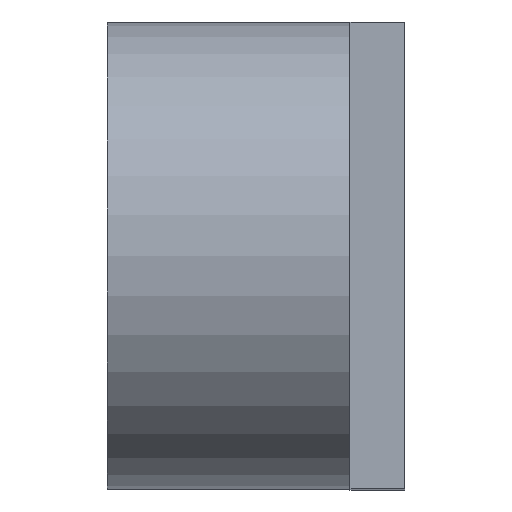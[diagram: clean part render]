
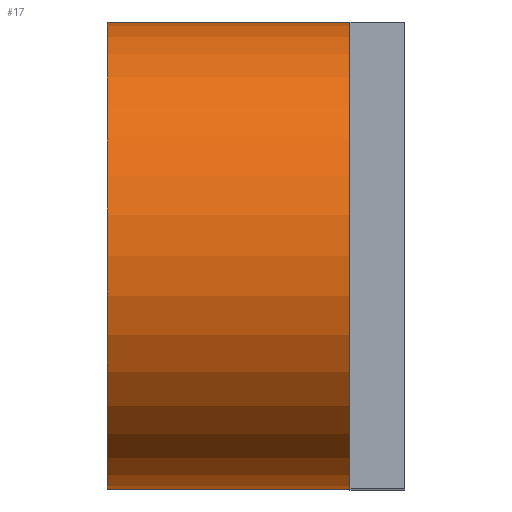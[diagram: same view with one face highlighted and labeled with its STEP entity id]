
A CAD part, top view. The second image highlights one B-rep face of the part: STEP entity #17.
In plain terms, the highlighted cylindrical face has radius 17 mm (diameter 34 mm), a full revolution.
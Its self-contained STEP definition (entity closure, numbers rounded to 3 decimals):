
#17 = ADVANCED_FACE('',(#18),#63,.T.);
#18 = FACE_BOUND('',#19,.T.);
#19 = EDGE_LOOP('',(#20,#31,#39,#46,#47,#56));
#20 = ORIENTED_EDGE('',*,*,#21,.F.);
#21 = EDGE_CURVE('',#22,#24,#26,.T.);
#22 = VERTEX_POINT('',#23);
#23 = CARTESIAN_POINT('',(95.,-108.,150.));
#24 = VERTEX_POINT('',#25);
#25 = CARTESIAN_POINT('',(95.,-125.,133.));
#26 = CIRCLE('',#27,17.);
#27 = AXIS2_PLACEMENT_3D('',#28,#29,#30);
#28 = CARTESIAN_POINT('',(95.,-108.,133.));
#29 = DIRECTION('',(1.,0.,-0.));
#30 = DIRECTION('',(0.,0.,1.));
#31 = ORIENTED_EDGE('',*,*,#32,.F.);
#32 = EDGE_CURVE('',#33,#22,#35,.T.);
#33 = VERTEX_POINT('',#34);
#34 = CARTESIAN_POINT('',(77.3,-108.,150.));
#35 = LINE('',#36,#37);
#36 = CARTESIAN_POINT('',(77.3,-108.,150.));
#37 = VECTOR('',#38,1.);
#38 = DIRECTION('',(1.,0.,0.));
#39 = ORIENTED_EDGE('',*,*,#40,.T.);
#40 = EDGE_CURVE('',#33,#33,#41,.T.);
#41 = CIRCLE('',#42,17.);
#42 = AXIS2_PLACEMENT_3D('',#43,#44,#45);
#43 = CARTESIAN_POINT('',(77.3,-108.,133.));
#44 = DIRECTION('',(1.,0.,-0.));
#45 = DIRECTION('',(0.,0.,1.));
#46 = ORIENTED_EDGE('',*,*,#32,.T.);
#47 = ORIENTED_EDGE('',*,*,#48,.F.);
#48 = EDGE_CURVE('',#49,#22,#51,.T.);
#49 = VERTEX_POINT('',#50);
#50 = CARTESIAN_POINT('',(95.,-91.,133.));
#51 = CIRCLE('',#52,17.);
#52 = AXIS2_PLACEMENT_3D('',#53,#54,#55);
#53 = CARTESIAN_POINT('',(95.,-108.,133.));
#54 = DIRECTION('',(1.,0.,-0.));
#55 = DIRECTION('',(0.,0.,1.));
#56 = ORIENTED_EDGE('',*,*,#57,.F.);
#57 = EDGE_CURVE('',#24,#49,#58,.T.);
#58 = CIRCLE('',#59,17.);
#59 = AXIS2_PLACEMENT_3D('',#60,#61,#62);
#60 = CARTESIAN_POINT('',(95.,-108.,133.));
#61 = DIRECTION('',(1.,0.,-0.));
#62 = DIRECTION('',(0.,0.,1.));
#63 = CYLINDRICAL_SURFACE('',#64,17.);
#64 = AXIS2_PLACEMENT_3D('',#65,#66,#67);
#65 = CARTESIAN_POINT('',(77.3,-108.,133.));
#66 = DIRECTION('',(1.,0.,0.));
#67 = DIRECTION('',(0.,0.,1.));
